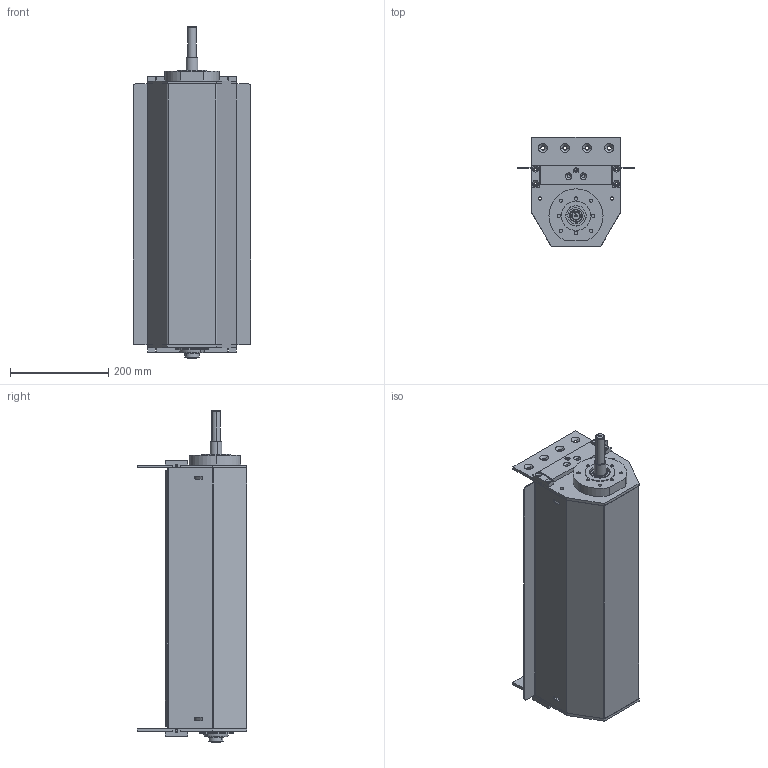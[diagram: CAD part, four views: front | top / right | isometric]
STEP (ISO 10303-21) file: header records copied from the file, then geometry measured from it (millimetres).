
FILE_DESCRIPTION (( 'STEP AP203' ), '1' );
FILE_NAME ('084.050.KCS.44.500.STEP', '2019-07-30T07:58:07', ( '' ), ( '' ), 'SwSTEP 2.0', 'SolidWorks 2018', '' );
FILE_SCHEMA (( 'CONFIG_CONTROL_DESIGN' ));
Length unit declared in the file: millimetre
Products named in the file (15): 084.802.004-1; 084.817.040; CUSCINETTI A SFERE_6004-2RS; 084.050.KCS.44.500; 084.817.039_Default<A macchina>; 084.802.010; 084.810.003; 084.814.002-1; 084.812.003; 084.802.021; 084.802.012_Solo centrale; 084.802.003; 084.817.041; 084.802.020; 084.817.042
Assembly tree (25 placements, depth 2):
  084.050.KCS.44.500
    084.817.042  x2
    084.817.039_Default<A macchina>
    084.817.040
    084.817.041  x2
    084.802.012_Solo centrale  x2
    084.802.010
    084.802.021
    084.814.002-1
    084.810.003  x2
    084.802.004-1  x4
    084.802.020
    084.812.003
    084.802.003  x2
    CUSCINETTI A SFERE_6004-2RS  x4
Bounding box: 240 x 223 x 676 mm (x, y, z)
Volume: 3402024 mm3; surface area: 1702609.6 mm2
Topology: 27 solids, 27 shells, 982 faces, 2426 edges, 1555 vertices
Faces by surface type: plane 419, cylinder 347, cone 138, torus 68, sphere 10
Entity records: 20575 total; most frequent: DIRECTION 3468, CARTESIAN_POINT 3260, ORIENTED_EDGE 3028, EDGE_CURVE 1514, AXIS2_PLACEMENT_3D 1326, VERTEX_POINT 970, VECTOR 816, LINE 816
